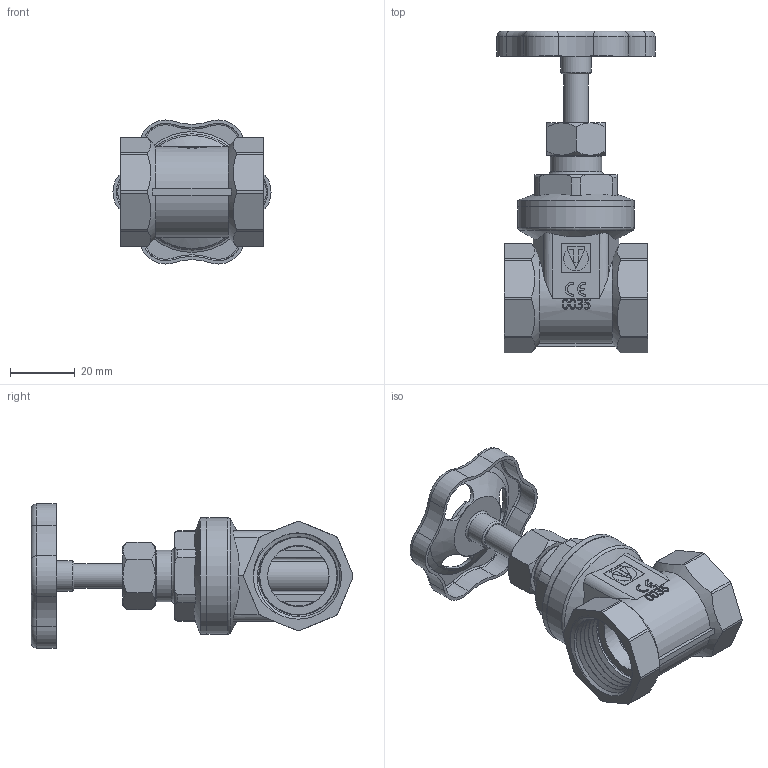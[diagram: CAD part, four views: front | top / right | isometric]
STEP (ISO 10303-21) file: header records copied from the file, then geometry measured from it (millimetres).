
FILE_DESCRIPTION(/* description */ (''),/* implementation_level */ '2;1');
FILE_NAME(/* name */ 'F:\Артём\00000\Работа удаленка\Вентили и задвижки\VT.012.G.05.stp',/* time_stamp */ '2020-11-05T15:25:57+03:00',/* author */ ('almis'),/* organization */ (''),/* preprocessor_version */ 'ST-DEVELOPER v18',/* originating_system */ 'Autodesk Inventor 2020',/* authorisation */ '');
FILE_SCHEMA (('AUTOMOTIVE_DESIGN { 1 0 10303 214 3 1 1 }'));
Length unit declared in the file: millimetre
Products named in the file (1): VT.012_2
Bounding box: 48.95 x 99.62 x 44.6 mm (x, y, z)
Volume: 29954.7 mm3; surface area: 29820.1 mm2
Topology: 2 solids, 4 shells, 603 faces, 1637 edges, 1096 vertices
Faces by surface type: plane 232, cylinder 161, bspline 114, torus 48, cone 47, sphere 1
Full cylindrical faces by diameter (mm): 4.9 x1, 6 x1, 7 x1, 7.15 x1, 7.7 x1, 8 x3, 8.4 x1, 8.6 x1, 9 x1, 9.35 x1, 10 x3, 10.5 x1, 15 x2, 16 x1, 19 x2, 22.5 x1, 23.3 x1, 24.2 x8, 27 x1, 27.8 x10, 29.8 x1, 31 x1, 34.6 x1, 35.8 x1, 36 x2
Entity records: 26196 total; most frequent: CARTESIAN_POINT 11600, ORIENTED_EDGE 3272, DIRECTION 2734, EDGE_CURVE 1636, VERTEX_POINT 1096, AXIS2_PLACEMENT_3D 1035, EDGE_LOOP 672, LINE 664
